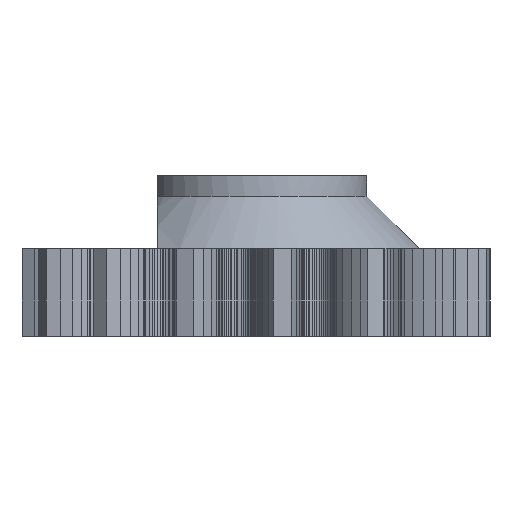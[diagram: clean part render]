
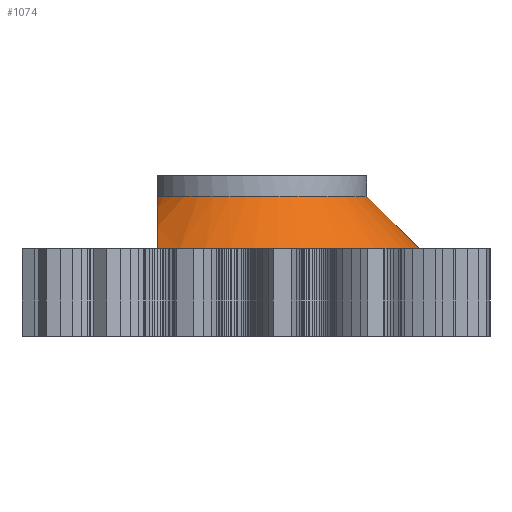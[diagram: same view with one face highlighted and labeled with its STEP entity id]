
A CAD part, left-side view. The second image highlights one B-rep face of the part: STEP entity #1074.
In plain terms, the highlighted free-form (B-spline) face has degree [1, 2] with [2, 5] control points.
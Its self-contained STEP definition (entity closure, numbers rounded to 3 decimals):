
#1074=ADVANCED_FACE('',(#2126),#17809,.T.);
#2126=FACE_OUTER_BOUND('',#3189,.T.);
#3189=EDGE_LOOP('',(#9430,#9431,#9432,#9433));
#9430=ORIENTED_EDGE('',*,*,#12568,.T.);
#9431=ORIENTED_EDGE('',*,*,#12567,.F.);
#9432=ORIENTED_EDGE('',*,*,#12570,.F.);
#9433=ORIENTED_EDGE('',*,*,#12569,.T.);
#12567=EDGE_CURVE('',#17790,#17791,#15660,.T.);
#12568=EDGE_CURVE('',#17789,#17791,#15701,.T.);
#12569=EDGE_CURVE('',#17787,#17789,#15661,.T.);
#12570=EDGE_CURVE('',#17787,#17790,#15702,.T.);
#15660=B_SPLINE_CURVE_WITH_KNOTS('',1,(#30640,#30641),.UNSPECIFIED.,.F.,
 .F.,(2,2),(0.,8.591),.UNSPECIFIED.);
#15661=B_SPLINE_CURVE_WITH_KNOTS('',3,(#30647,#30648,#30649,#30650,#30651,
#30652,#30653,#30654,#30655,#30656),.UNSPECIFIED.,.F.,.F.,(4,2,2,2,4),(0.,
2.845,5.681,8.515,11.351),
 .UNSPECIFIED.);
#15701=(
BOUNDED_CURVE()
B_SPLINE_CURVE(2,(#30642,#30643,#30644,#30645,#30646),.UNSPECIFIED.,.F.,
 .F.)
B_SPLINE_CURVE_WITH_KNOTS((3,2,3),(9.2,29.934,50.668),
 .UNSPECIFIED.)
CURVE()
GEOMETRIC_REPRESENTATION_ITEM()
RATIONAL_B_SPLINE_CURVE((1.,0.847,1.,0.847,1.))
REPRESENTATION_ITEM('')
);
#15702=(
BOUNDED_CURVE()
B_SPLINE_CURVE(2,(#30657,#30658,#30659,#30660,#30661),.UNSPECIFIED.,.F.,
 .F.)
B_SPLINE_CURVE_WITH_KNOTS((3,2,3),(0.,25.334,
50.668),.UNSPECIFIED.)
CURVE()
GEOMETRIC_REPRESENTATION_ITEM()
RATIONAL_B_SPLINE_CURVE((1.,0.775,1.,0.775,1.))
REPRESENTATION_ITEM('')
);
#17787=VERTEX_POINT('',#27502);
#17789=VERTEX_POINT('',#27504);
#17790=VERTEX_POINT('',#27505);
#17791=VERTEX_POINT('',#27506);
#17809=(
BOUNDED_SURFACE()
B_SPLINE_SURFACE(1,2,((#26464,#26465,#26466,#26467,#26468),(#26469,#26470,
#26471,#26472,#26473)),.UNSPECIFIED.,.F.,.F.,.F.)
B_SPLINE_SURFACE_WITH_KNOTS((2,2),(3,2,3),(0.,8.591),(-6.,
22.334,50.668),.UNSPECIFIED.)
GEOMETRIC_REPRESENTATION_ITEM()
RATIONAL_B_SPLINE_SURFACE(((1.,0.721,1.,0.721,1.),
(1.,0.721,1.,0.721,1.)))
REPRESENTATION_ITEM('')
SURFACE()
);
#26464=CARTESIAN_POINT('',(-89.492,64.212,-12.347));
#26465=CARTESIAN_POINT('',(-101.475,63.27,-12.347));
#26466=CARTESIAN_POINT('',(-101.004,51.26,-12.347));
#26467=CARTESIAN_POINT('',(-100.533,39.25,-12.347));
#26468=CARTESIAN_POINT('',(-88.514,39.25,-12.347));
#26469=CARTESIAN_POINT('',(-89.962,70.193,-18.347));
#26470=CARTESIAN_POINT('',(-107.696,68.8,-18.347));
#26471=CARTESIAN_POINT('',(-106.999,51.025,-18.347));
#26472=CARTESIAN_POINT('',(-106.302,33.25,-18.347));
#26473=CARTESIAN_POINT('',(-88.514,33.25,-18.347));
#27502=CARTESIAN_POINT('',(-93.412,63.25,-12.347));
#27504=CARTESIAN_POINT('',(-103.005,63.25,-18.347));
#27505=CARTESIAN_POINT('',(-88.514,39.25,-12.347));
#27506=CARTESIAN_POINT('',(-88.514,33.25,-18.347));
#30640=CARTESIAN_POINT('',(-88.514,39.25,-12.347));
#30641=CARTESIAN_POINT('',(-88.514,33.25,-18.347));
#30642=CARTESIAN_POINT('',(-103.005,63.25,-18.347));
#30643=CARTESIAN_POINT('',(-110.221,54.156,-18.347));
#30644=CARTESIAN_POINT('',(-105.172,43.703,-18.347));
#30645=CARTESIAN_POINT('',(-100.122,33.25,-18.347));
#30646=CARTESIAN_POINT('',(-88.514,33.25,-18.347));
#30647=CARTESIAN_POINT('',(-93.412,63.25,-12.347));
#30648=CARTESIAN_POINT('',(-94.142,63.25,-12.633));
#30649=CARTESIAN_POINT('',(-94.888,63.25,-12.979));
#30650=CARTESIAN_POINT('',(-96.433,63.25,-13.795));
#30651=CARTESIAN_POINT('',(-97.23,63.25,-14.263));
#30652=CARTESIAN_POINT('',(-98.85,63.25,-15.297));
#30653=CARTESIAN_POINT('',(-99.675,63.25,-15.863));
#30654=CARTESIAN_POINT('',(-101.336,63.25,-17.061));
#30655=CARTESIAN_POINT('',(-102.17,63.25,-17.693));
#30656=CARTESIAN_POINT('',(-103.005,63.25,-18.347));
#30657=CARTESIAN_POINT('',(-93.412,63.25,-12.347));
#30658=CARTESIAN_POINT('',(-102.802,59.25,-12.347));
#30659=CARTESIAN_POINT('',(-100.761,49.25,-12.347));
#30660=CARTESIAN_POINT('',(-98.72,39.25,-12.347));
#30661=CARTESIAN_POINT('',(-88.514,39.25,-12.347));
